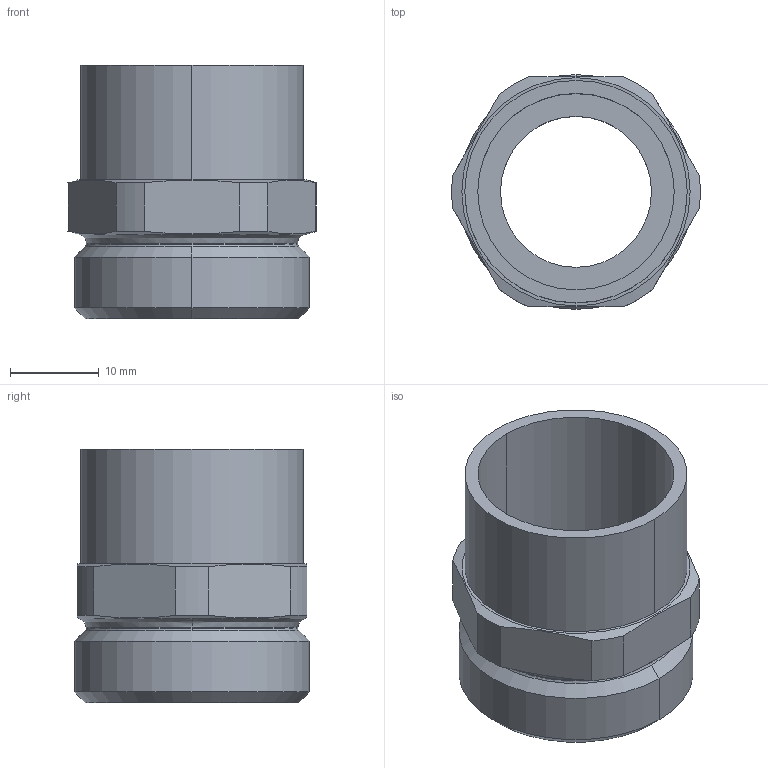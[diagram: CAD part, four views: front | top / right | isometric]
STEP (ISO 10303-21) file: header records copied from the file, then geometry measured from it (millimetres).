
FILE_DESCRIPTION((''),'2;1');
FILE_NAME('14380_22-34(1).stp','2009-02-03T09:46:18',(''),(''),'Mechanical Desktop 2009','Mechanical Desktop 2009',', , ');
FILE_SCHEMA(('CONFIG_CONTROL_DESIGN'));
Length unit declared in the file: millimetre
Products named in the file (2): 14380_22-34(1); CZﾊ姑1
Assembly tree (1 placements, depth 2):
  14380_22-34(1)
    CZﾊ姑1
Bounding box: 27.97 x 26.44 x 28.5 mm (x, y, z)
Volume: 5573.2 mm3; surface area: 4745.2 mm2
Topology: 1 solids, 1 shells, 40 faces, 102 edges, 66 vertices
Faces by surface type: cylinder 16, cone 10, plane 10, bspline 4
Entity records: 1489 total; most frequent: CARTESIAN_POINT 418, DIRECTION 216, ORIENTED_EDGE 204, EDGE_CURVE 102, AXIS2_PLACEMENT_3D 92, VERTEX_POINT 66, CIRCLE 54, EDGE_LOOP 44
